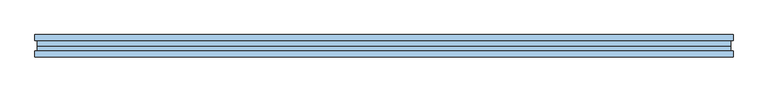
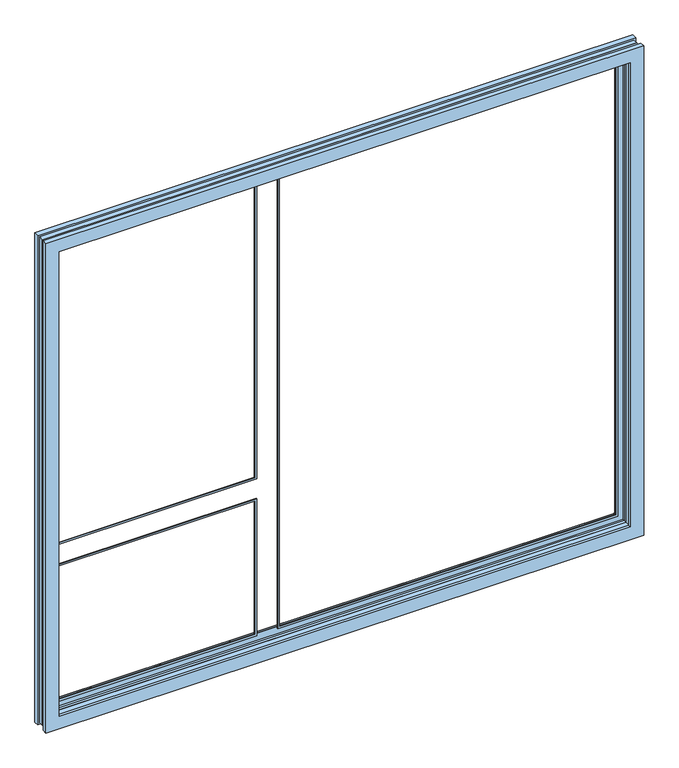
"""IFC4 building model written with IfcOpenShell, lengths in millimetres: window geometry, windowss9000gealanturntiltwindowsublightfixedwindow : windowss9000 2.60 x 2.25."""

from ifc_helpers import new_model, si_unit, frame, origin, place, context, project, spatial, polyline, ellipse_curve, outline, extrude, faceted_brep, source, transform, mapped, element, save
from ifc_brep_helpers import plane_surface, cylinder_surface, advanced_brep


def window_247b9f68(model_context):
    return source(origin(), model_context, "Body", "SolidModel", [
        advanced_brep(
        [(1216.0, 106.02771, 3006.0), (1218.5522708, 115.5529143, 3008.5522708), (1218.5522708, 115.5529143, 921.4477292), (1216.0, 106.02771, 924.0), (1216.0, 105.0, 3006.0), (1216.0, 105.0, 924.0), (1246.1, 90.9886714, 3036.1), (1249.0781998, 105.0, 3039.0781998), (1249.0781998, 105.0, 890.9218002), (1246.1, 90.9886714, 893.9), (1246.1, 77.5, 3036.1), (1246.1, 77.5, 893.9), (1292.0, 99.0, 3082.0), (1292.0, 77.5, 3082.0), (1292.0, 77.5, 848.0), (1292.0, 99.0, 848.0), (1300.0, 120.0, 3090.0), (1300.0, 99.0, 3090.0), (1300.0, 99.0, 840.0), (1300.0, 120.0, 840.0), (1224.3478258, 120.0, 3014.3478258), (1224.3478258, 120.0, 915.6521742), (-1218.5522708, 115.5529143, 921.4477292), (-1216.0, 106.02771, 924.0), (-1216.0, 105.0, 924.0), (-1249.0781998, 105.0, 890.9218002), (-1246.1, 90.9886714, 893.9), (-1246.1, 77.5, 893.9), (-1292.0, 77.5, 848.0), (-1292.0, 99.0, 848.0), (-1300.0, 99.0, 840.0), (-1300.0, 120.0, 840.0), (-1224.3478258, 120.0, 915.6521742), (-1218.5522708, 115.5529143, 3008.5522708), (-1216.0, 106.02771, 3006.0), (-1216.0, 105.0, 3006.0), (-1249.0781998, 105.0, 3039.0781998), (-1246.1, 90.9886714, 3036.1), (-1246.1, 77.5, 3036.1), (-1292.0, 77.5, 3082.0), (-1292.0, 99.0, 3082.0), (-1300.0, 99.0, 3090.0), (-1300.0, 120.0, 3090.0), (-1224.3478258, 120.0, 3014.3478258)],
        [
            (0, 1),
            (1, 2),
            (2, 3),
            (3, 0),
            (4, 0),
            (3, 5),
            (5, 4),
            (6, 7),
            (7, 8),
            (8, 9),
            (9, 6),
            (10, 6),
            (9, 11),
            (11, 10),
            (12, 13),
            (13, 14),
            (14, 15),
            (15, 12),
            (16, 17),
            (17, 18),
            (18, 19),
            (19, 16),
            (1, 20, ellipse_curve(frame((1224.3478258, 114.0, 3014.3478258), z_axis=(0.7071067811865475, 0.0, -0.7071067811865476), x_axis=(0.7071067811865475, 0.0, 0.7071067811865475)), 8.4852814, 6.0)),
            (20, 21),
            (21, 2, ellipse_curve(frame((1224.3478258, 114.0, 915.6521742), z_axis=(0.7071067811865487, 0.0, 0.7071067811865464), x_axis=(-0.7071067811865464, 0.0, 0.7071067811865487)), 8.4852814, 6.0)),
            (2, 22),
            (22, 23),
            (23, 3),
            (23, 24),
            (24, 5),
            (8, 25),
            (25, 26),
            (26, 9),
            (26, 27),
            (27, 11),
            (14, 28),
            (28, 29),
            (29, 15),
            (18, 30),
            (30, 31),
            (31, 19),
            (21, 32),
            (32, 22, ellipse_curve(frame((-1224.3478258, 114.0, 915.6521742), z_axis=(0.7071067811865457, 0.0, -0.7071067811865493), x_axis=(0.7071067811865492, 0.0, 0.7071067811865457)), 8.4852814, 6.0)),
            (22, 33),
            (33, 34),
            (34, 23),
            (34, 35),
            (35, 24),
            (25, 36),
            (36, 37),
            (37, 26),
            (37, 38),
            (38, 27),
            (28, 39),
            (39, 40),
            (40, 29),
            (30, 41),
            (41, 42),
            (42, 31),
            (32, 43),
            (43, 33, ellipse_curve(frame((-1224.3478258, 114.0, 3014.3478258), z_axis=(-0.7071067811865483, 0.0, -0.7071067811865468), x_axis=(0.7071067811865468, 0.0, -0.7071067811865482)), 8.4852814, 6.0)),
            (33, 1),
            (0, 34),
            (4, 35),
            (7, 36),
            (6, 37),
            (10, 38),
            (13, 39),
            (12, 40),
            (17, 41),
            (16, 42),
            (20, 43),
        ],
        [
            plane_surface(frame((1218.5522708, 115.5529143, 3008.5522708), z_axis=(-0.9659258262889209, 0.25881904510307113, 0.0), x_axis=(0.0, 0.0, -1.0))),
            plane_surface(frame((1216.0, 106.02771, 3006.0), z_axis=(-1.0, 0.0, 0.0), x_axis=(0.0, 0.0, -1.0))),
            plane_surface(frame((1249.0781998, 105.0, 3039.0781998), z_axis=(-0.9781476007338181, 0.20791169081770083, 0.0), x_axis=(0.0, 0.0, -1.0))),
            plane_surface(frame((1246.1, 90.9886714, 3036.1), z_axis=(-1.0, 0.0, 0.0), x_axis=(0.0, 0.0, -1.0))),
            plane_surface(frame((1292.0, 77.5, 3082.0), z_axis=(1.0, 0.0, 0.0), x_axis=(0.0, 0.0, -1.0))),
            plane_surface(frame((1300.0, 99.0, 3090.0), z_axis=(1.0, 0.0, 0.0), x_axis=(0.0, 0.0, -1.0))),
            cylinder_surface(frame((1224.3478258, 114.0, 3090.0), z_axis=(0.0, 0.0, 1.0), x_axis=(0.0, 1.0, 0.0)), 6.0),
            plane_surface(frame((1218.5522708, 115.5529143, 921.4477292), z_axis=(0.0, 0.25881904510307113, 0.9659258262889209), x_axis=(-1.0, 0.0, 0.0))),
            plane_surface(frame((1216.0, 106.02771, 924.0), z_axis=(0.0, 0.0, 1.0), x_axis=(-1.0, 0.0, 0.0))),
            plane_surface(frame((1249.0781998, 105.0, 890.9218002), z_axis=(0.0, 0.20791169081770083, 0.9781476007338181), x_axis=(-1.0, 0.0, 0.0))),
            plane_surface(frame((1246.1, 90.9886714, 893.9), z_axis=(0.0, 0.0, 1.0), x_axis=(-1.0, 0.0, 0.0))),
            plane_surface(frame((1292.0, 77.5, 848.0), z_axis=(0.0, 0.0, -1.0), x_axis=(-1.0, 0.0, 0.0))),
            plane_surface(frame((1300.0, 99.0, 840.0), z_axis=(0.0, 0.0, -1.0), x_axis=(-1.0, 0.0, 0.0))),
            cylinder_surface(frame((1300.0, 114.0, 915.6521742), z_axis=(1.0, 0.0, 0.0), x_axis=(0.0, 1.0, 0.0)), 6.0),
            plane_surface(frame((-1218.5522708, 115.5529143, 921.4477292), z_axis=(0.9659258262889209, 0.25881904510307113, 0.0), x_axis=(0.0, 0.0, 1.0))),
            plane_surface(frame((-1216.0, 106.02771, 924.0), z_axis=(1.0, 0.0, 0.0), x_axis=(0.0, 0.0, 1.0))),
            plane_surface(frame((-1249.0781998, 105.0, 890.9218002), z_axis=(0.9781476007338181, 0.20791169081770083, 0.0), x_axis=(0.0, 0.0, 1.0))),
            plane_surface(frame((-1246.1, 90.9886714, 893.9), z_axis=(1.0, 0.0, 0.0), x_axis=(0.0, 0.0, 1.0))),
            plane_surface(frame((-1292.0, 77.5, 848.0), z_axis=(-1.0, 0.0, 0.0), x_axis=(0.0, 0.0, 1.0))),
            plane_surface(frame((-1300.0, 99.0, 840.0), z_axis=(-1.0, 0.0, 0.0), x_axis=(0.0, 0.0, 1.0))),
            cylinder_surface(frame((-1224.3478258, 114.0, 840.0), z_axis=(0.0, 0.0, -1.0), x_axis=(0.0, 1.0, 0.0)), 6.0),
            plane_surface(frame((-1218.5522708, 115.5529143, 3008.5522708), z_axis=(0.0, 0.25881904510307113, -0.9659258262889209), x_axis=(1.0, 0.0, 0.0))),
            plane_surface(frame((-1216.0, 106.02771, 3006.0), z_axis=(0.0, 0.0, -1.0), x_axis=(1.0, 0.0, 0.0))),
            plane_surface(frame((-1217.0, 105.0, 3007.0), z_axis=(0.0, -1.0, 0.0), x_axis=(1.0, 0.0, 0.0))),
            plane_surface(frame((-1249.0781998, 105.0, 3039.0781998), z_axis=(0.0, 0.20791169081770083, -0.9781476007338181), x_axis=(1.0, 0.0, 0.0))),
            plane_surface(frame((-1246.1, 90.9886714, 3036.1), z_axis=(0.0, 0.0, -1.0), x_axis=(1.0, 0.0, 0.0))),
            plane_surface(frame((-1246.1, 77.5, 3036.1), z_axis=(0.0, -1.0, 0.0), x_axis=(1.0, 0.0, 0.0))),
            plane_surface(frame((-1292.0, 77.5, 3082.0), z_axis=(0.0, 0.0, 1.0), x_axis=(1.0, 0.0, 0.0))),
            plane_surface(frame((-1292.0, 99.0, 3082.0), z_axis=(0.0, -1.0, 0.0), x_axis=(1.0, 0.0, 0.0))),
            plane_surface(frame((-1300.0, 99.0, 3090.0), z_axis=(0.0, 0.0, 1.0), x_axis=(1.0, 0.0, 0.0))),
            plane_surface(frame((-1300.0, 120.0, 3090.0), z_axis=(0.0, 1.0, 0.0), x_axis=(1.0, 0.0, 0.0))),
            cylinder_surface(frame((-1300.0, 114.0, 3014.3478258), z_axis=(-1.0, 0.0, 0.0), x_axis=(0.0, 1.0, 0.0)), 6.0),
        ],
        [
            (0, [[1, 2, 3, 4]]),
            (1, [[5, -4, 6, 7]]),
            (2, [[8, 9, 10, 11]]),
            (3, [[12, -11, 13, 14]]),
            (4, [[15, 16, 17, 18]]),
            (5, [[19, 20, 21, 22]]),
            (6, [[23, 24, 25, -2]]),
            (7, [[-3, 26, 27, 28]]),
            (8, [[-6, -28, 29, 30]]),
            (9, [[-10, 31, 32, 33]]),
            (10, [[-13, -33, 34, 35]]),
            (11, [[-17, 36, 37, 38]]),
            (12, [[-21, 39, 40, 41]]),
            (13, [[-25, 42, 43, -26]]),
            (14, [[-27, 44, 45, 46]]),
            (15, [[-29, -46, 47, 48]]),
            (16, [[-32, 49, 50, 51]]),
            (17, [[-34, -51, 52, 53]]),
            (18, [[-37, 54, 55, 56]]),
            (19, [[-40, 57, 58, 59]]),
            (20, [[-43, 60, 61, -44]]),
            (21, [[-45, 62, -1, 63]]),
            (22, [[-47, -63, -5, 64]]),
            (23, [[65, -49, -31, -9], [-30, -48, -64, -7]]),
            (24, [[-50, -65, -8, 66]]),
            (25, [[-52, -66, -12, 67]]),
            (26, [[68, -54, -36, -16], [-35, -53, -67, -14]]),
            (27, [[-55, -68, -15, 69]]),
            (28, [[70, -57, -39, -20], [-38, -56, -69, -18]]),
            (29, [[-58, -70, -19, 71]]),
            (30, [[-41, -59, -71, -22], [72, -60, -42, -24]]),
            (31, [[-61, -72, -23, -62]]),
        ],
    ),
        faceted_brep([(1242.0, 37.5, 3032.0), (1242.0, 48.75, 3032.0), (1242.0, 48.75, 898.0), (1242.0, 37.5, 898.0), (1300.0, 37.5, 3090.0), (1300.0, 37.5, 840.0), (1300.0, 58.5, 840.0), (1300.0, 58.5, 3090.0), (1292.0, 77.5, 3082.0), (1292.0, 58.5, 3082.0), (1292.0, 58.5, 848.0), (1292.0, 77.5, 848.0), (1246.1, 48.75, 3036.1), (1246.1, 77.5, 3036.1), (1246.1, 77.5, 893.9), (1246.1, 48.75, 893.9), (-1242.0, 48.75, 898.0), (-1242.0, 37.5, 898.0), (-1300.0, 37.5, 840.0), (-1300.0, 58.5, 840.0), (-1292.0, 58.5, 848.0), (-1292.0, 77.5, 848.0), (-1246.1, 77.5, 893.9), (-1246.1, 48.75, 893.9), (-1242.0, 48.75, 3032.0), (-1242.0, 37.5, 3032.0), (-1300.0, 37.5, 3090.0), (-1300.0, 58.5, 3090.0), (-1292.0, 58.5, 3082.0), (-1292.0, 77.5, 3082.0), (-1246.1, 77.5, 3036.1), (-1246.1, 48.75, 3036.1)], [[[0, 1, 2, 3]], [[4, 5, 6, 7]], [[8, 9, 10, 11]], [[12, 13, 14, 15]], [[3, 2, 16, 17]], [[6, 5, 18, 19]], [[11, 10, 20, 21]], [[15, 14, 22, 23]], [[17, 16, 24, 25]], [[19, 18, 26, 27]], [[21, 20, 28, 29]], [[23, 22, 30, 31]], [[25, 24, 1, 0]], [[4, 26, 18, 5], [3, 17, 25, 0]], [[27, 26, 4, 7]], [[6, 19, 27, 7], [9, 28, 20, 10]], [[29, 28, 9, 8]], [[11, 21, 29, 8], [13, 30, 22, 14]], [[31, 30, 13, 12]], [[15, 23, 31, 12], [1, 24, 16, 2]]]),
        extrude(outline(polyline([(3014.9709942, -345.3390225), (3014.9709942, -1224.9709942), (1635.3074153, -1224.9709942), (1635.3074153, -345.3390225), (3014.9709942, -345.3390225)]), holes=[polyline([(1643.7784096, -353.8100167), (1643.7784096, -1216.5), (3006.5, -1216.5), (3006.5, -353.8100167), (1643.7784096, -353.8100167)])]), frame((0.0, 101.5, 0.0), z_axis=(0.0, 1.0, 0.0), x_axis=(0.0, 0.0, 1.0)), (0.0, 0.0, 1.0), 3.4982609),
        extrude(outline(polyline([(3014.9481607, 1224.9481607), (3014.9481607, -254.9481607), (915.0518393, -254.9481607), (915.0518393, 1224.9481607), (3014.9481607, 1224.9481607)]), holes=[polyline([(923.5, 1216.5), (923.5, -246.5), (3006.5, -246.5), (3006.5, 1216.5), (923.5, 1216.5)])]), frame((0.0, 102.0, 0.0), z_axis=(0.0, 1.0, 0.0), x_axis=(0.0, 0.0, 1.0)), (0.0, 0.0, 1.0), 3.0),
        extrude(outline(polyline([(1544.8166628, -345.1833372), (1544.8166628, -1225.1266795), (914.8733205, -1225.1266795), (914.8733205, -345.1833372), (1544.8166628, -345.1833372)]), holes=[polyline([(924.0, -354.3100167), (924.0, -1216.0), (1535.6899833, -1216.0), (1535.6899833, -354.3100167), (924.0, -354.3100167)])]), frame((0.0, 102.0015695, 0.0), z_axis=(0.0, 1.0, 0.0), x_axis=(0.0, 0.0, 1.0)), (0.0, 0.0, 1.0), 3.0),
    ])


if __name__ == "__main__":
    model = new_model("IFC4")
    model_context = context("Model", 3, world=origin())
    ifc_project = project(units=[si_unit("LENGTHUNIT", "METRE", prefix="MILLI")], contexts=[model_context])
    site = spatial("IfcSite", under=ifc_project)
    building = spatial("IfcBuilding", under=site)
    placement = place(None, origin())
    window_shape = window_247b9f68(model_context)
    element("IfcWindow", 1, ObjectType="windowss9000gealanturntiltwindowsublightfixedwindow : windowss9000 2.60 x 2.25", at=placement, inside=building, context=model_context, shape_type="MappedRepresentation", body=[
        mapped(window_shape, transform((0.0, 0.0, 0.0), x_axis=(1.0, 0.0, 0.0), y_axis=(0.0, 1.0, 0.0), z_axis=(0.0, 0.0, 1.0))),
    ])
    save(model, "model.ifc")
